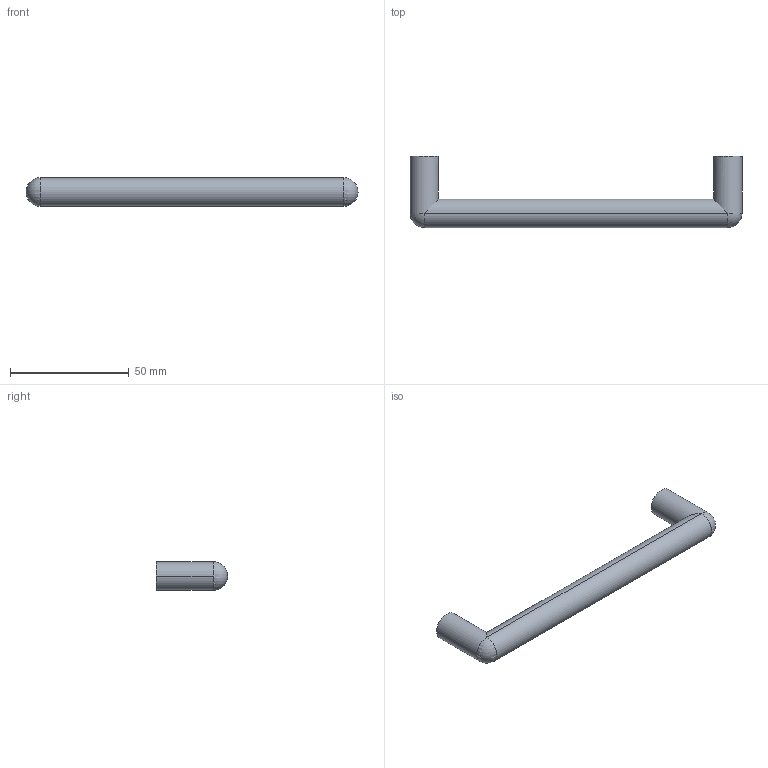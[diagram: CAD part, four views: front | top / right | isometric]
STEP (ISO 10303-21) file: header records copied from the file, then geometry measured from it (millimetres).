
FILE_DESCRIPTION( ( '' ), '1' );
FILE_NAME( 'D:/1.AUTOCAD EXPORT/Group 10/sheet_10_1/ 9070973.stp', '2013-10-17T08:19:26', ( '' ), ( '' ), ' ', ' ', ' ' );
FILE_SCHEMA( ( 'automotive_design' ) );
Length unit declared in the file: millimetre
Products named in the file (1): 1
Bounding box: 140 x 30 x 12 mm (x, y, z)
Volume: 19388.8 mm3; surface area: 7113.6 mm2
Topology: 1 solids, 1 shells, 16 faces, 36 edges, 20 vertices
Faces by surface type: cylinder 10, plane 4, sphere 2
Entity records: 838 total; most frequent: DIRECTION 88, STYLED_ITEM 69, PRESENTATION_STYLE_ASSIGNMENT 69, CARTESIAN_POINT 69, COLOUR_RGB 69, ORIENTED_EDGE 64, AXIS2_PLACEMENT_3D 39, EDGE_CURVE 32
